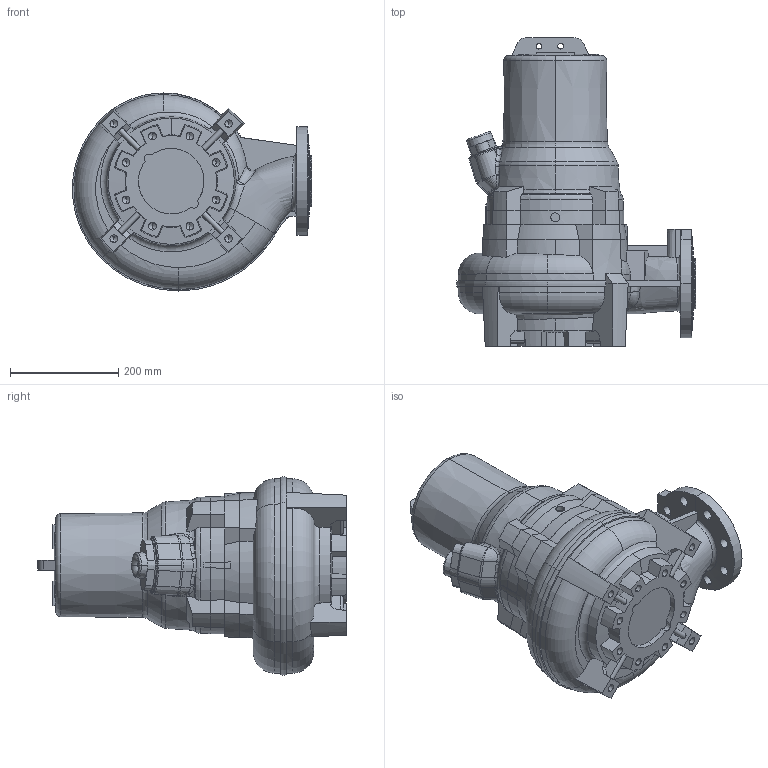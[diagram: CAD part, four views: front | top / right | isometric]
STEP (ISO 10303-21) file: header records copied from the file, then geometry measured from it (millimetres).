
FILE_DESCRIPTION (( 'STEP AP203' ), '1' );
FILE_NAME ('80FWC-M_5,5kW.STEP', '2025-03-21T10:19:05', ( '' ), ( '' ), 'SwSTEP 2.0', 'SolidWorks 2023', '' );
FILE_SCHEMA (( 'CONFIG_CONTROL_DESIGN' ));
Length unit declared in the file: millimetre
Products named in the file (1): 80FWC-M_5,5kW
Bounding box: 441.26 x 570 x 365.91 mm (x, y, z)
Volume: 29521848.1 mm3; surface area: 783993.2 mm2
Topology: 1 solids, 1 shells, 656 faces, 1730 edges, 1084 vertices
Faces by surface type: plane 248, cone 149, cylinder 97, bspline 88, torus 67, sphere 7
Entity records: 28417 total; most frequent: CARTESIAN_POINT 13116, ORIENTED_EDGE 3404, DIRECTION 2920, EDGE_CURVE 1702, AXIS2_PLACEMENT_3D 1172, VERTEX_POINT 1084, EDGE_LOOP 712, ADVANCED_FACE 656
